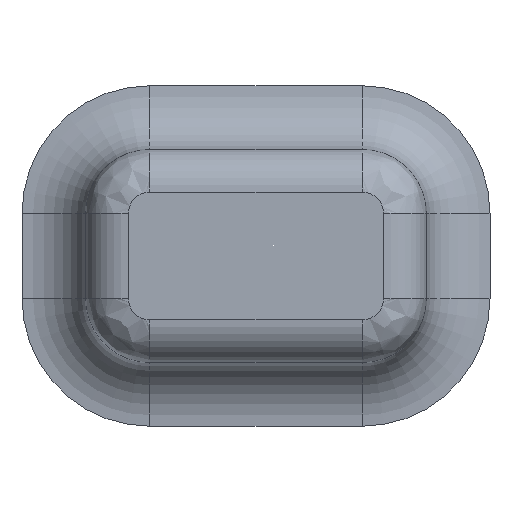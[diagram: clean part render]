
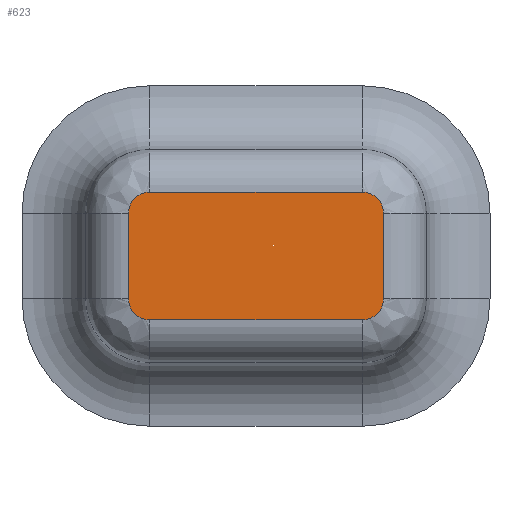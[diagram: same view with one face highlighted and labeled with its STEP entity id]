
A CAD part, front view. The second image highlights one B-rep face of the part: STEP entity #623.
In plain terms, the highlighted planar face has unit normal (0, -1, 0).
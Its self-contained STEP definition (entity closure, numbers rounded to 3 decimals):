
#26=PLANE('',#700);
#33=LINE('',#1019,#65);
#35=LINE('',#1039,#67);
#37=LINE('',#1059,#69);
#39=LINE('',#1076,#71);
#65=VECTOR('',#789,10.);
#67=VECTOR('',#801,10.);
#69=VECTOR('',#813,10.);
#71=VECTOR('',#823,10.);
#124=FACE_OUTER_BOUND('',#166,.T.);
#166=EDGE_LOOP('',(#424,#425,#426,#427,#428,#429,#430,#431));
#203=CIRCLE('',#683,0.5);
#207=CIRCLE('',#688,0.5);
#211=CIRCLE('',#693,0.5);
#215=CIRCLE('',#698,0.5);
#256=VERTEX_POINT('',#1006);
#259=VERTEX_POINT('',#1011);
#261=VERTEX_POINT('',#1017);
#263=VERTEX_POINT('',#1031);
#265=VERTEX_POINT('',#1037);
#267=VERTEX_POINT('',#1051);
#269=VERTEX_POINT('',#1057);
#271=VERTEX_POINT('',#1071);
#307=EDGE_CURVE('',#259,#256,#203,.T.);
#310=EDGE_CURVE('',#261,#259,#33,.T.);
#313=EDGE_CURVE('',#263,#261,#207,.T.);
#316=EDGE_CURVE('',#265,#263,#35,.T.);
#319=EDGE_CURVE('',#267,#265,#211,.T.);
#322=EDGE_CURVE('',#269,#267,#37,.T.);
#325=EDGE_CURVE('',#271,#269,#215,.T.);
#327=EDGE_CURVE('',#256,#271,#39,.T.);
#424=ORIENTED_EDGE('',*,*,#307,.F.);
#425=ORIENTED_EDGE('',*,*,#310,.F.);
#426=ORIENTED_EDGE('',*,*,#313,.F.);
#427=ORIENTED_EDGE('',*,*,#316,.F.);
#428=ORIENTED_EDGE('',*,*,#319,.F.);
#429=ORIENTED_EDGE('',*,*,#322,.F.);
#430=ORIENTED_EDGE('',*,*,#325,.F.);
#431=ORIENTED_EDGE('',*,*,#327,.F.);
#623=ADVANCED_FACE('',(#124),#26,.F.);
#683=AXIS2_PLACEMENT_3D('',#1013,#782,#783);
#688=AXIS2_PLACEMENT_3D('',#1033,#794,#795);
#693=AXIS2_PLACEMENT_3D('',#1053,#806,#807);
#698=AXIS2_PLACEMENT_3D('',#1073,#818,#819);
#700=AXIS2_PLACEMENT_3D('',#1077,#824,#825);
#782=DIRECTION('center_axis',(0.,1.,0.));
#783=DIRECTION('ref_axis',(-0.707,0.,0.707));
#789=DIRECTION('',(0.,0.,1.));
#794=DIRECTION('center_axis',(0.,1.,0.));
#795=DIRECTION('ref_axis',(-0.707,0.,-0.707));
#801=DIRECTION('',(-1.,0.,0.));
#806=DIRECTION('center_axis',(0.,1.,0.));
#807=DIRECTION('ref_axis',(0.707,0.,-0.707));
#813=DIRECTION('',(0.,0.,-1.));
#818=DIRECTION('center_axis',(0.,1.,0.));
#819=DIRECTION('ref_axis',(0.707,0.,0.707));
#823=DIRECTION('',(1.,0.,0.));
#824=DIRECTION('center_axis',(0.,1.,0.));
#825=DIRECTION('ref_axis',(0.,0.,1.));
#1006=CARTESIAN_POINT('',(-2.5,-2.5,1.5));
#1011=CARTESIAN_POINT('',(-3.,-2.5,1.));
#1013=CARTESIAN_POINT('Origin',(-2.5,-2.5,1.));
#1017=CARTESIAN_POINT('',(-3.,-2.5,-1.));
#1019=CARTESIAN_POINT('',(-3.,-2.5,0.5));
#1031=CARTESIAN_POINT('',(-2.5,-2.5,-1.5));
#1033=CARTESIAN_POINT('Origin',(-2.5,-2.5,-1.));
#1037=CARTESIAN_POINT('',(2.5,-2.5,-1.5));
#1039=CARTESIAN_POINT('',(-1.25,-2.5,-1.5));
#1051=CARTESIAN_POINT('',(3.,-2.5,-1.));
#1053=CARTESIAN_POINT('Origin',(2.5,-2.5,-1.));
#1057=CARTESIAN_POINT('',(3.,-2.5,1.));
#1059=CARTESIAN_POINT('',(3.,-2.5,-0.5));
#1071=CARTESIAN_POINT('',(2.5,-2.5,1.5));
#1073=CARTESIAN_POINT('Origin',(2.5,-2.5,1.));
#1076=CARTESIAN_POINT('',(1.25,-2.5,1.5));
#1077=CARTESIAN_POINT('Origin',(0.,-2.5,0.));
